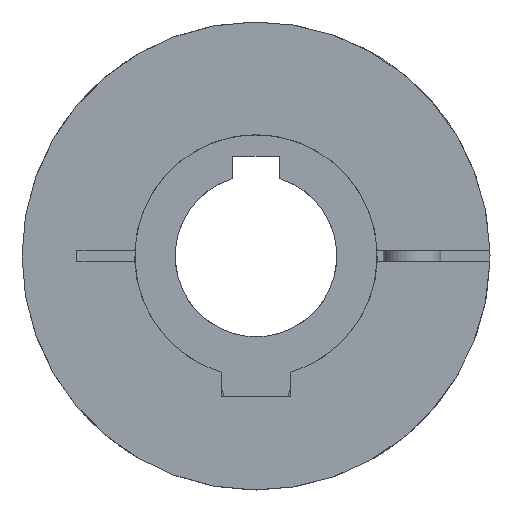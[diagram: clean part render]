
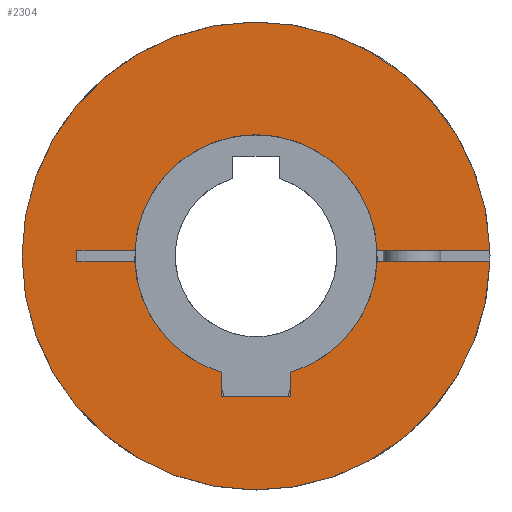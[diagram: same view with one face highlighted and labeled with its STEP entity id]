
A CAD part, left-side view. The second image highlights one B-rep face of the part: STEP entity #2304.
In plain terms, the highlighted planar face has unit normal (-1, 0, 0).
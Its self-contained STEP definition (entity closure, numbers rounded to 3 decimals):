
#134=PLANE('',#2632);
#287=LINE('',#4081,#424);
#290=LINE('',#4087,#427);
#291=LINE('',#4089,#428);
#293=LINE('',#4093,#430);
#299=LINE('',#4111,#436);
#301=LINE('',#4115,#438);
#302=LINE('',#4116,#439);
#303=LINE('',#4118,#440);
#424=VECTOR('',#3189,1.);
#427=VECTOR('',#3194,1.);
#428=VECTOR('',#3197,1.);
#430=VECTOR('',#3201,1000.);
#436=VECTOR('',#3217,1000.);
#438=VECTOR('',#3221,1000.);
#439=VECTOR('',#3222,1000.);
#440=VECTOR('',#3223,1000.);
#558=FACE_OUTER_BOUND('',#695,.T.);
#695=EDGE_LOOP('',(#1929,#1930,#1931,#1932,#1933,#1934,#1935,#1936,#1937,
#1938,#1939,#1940));
#862=CIRCLE('',#2617,21.);
#864=CIRCLE('',#2619,21.);
#865=CIRCLE('',#2621,21.);
#870=CIRCLE('',#2633,40.5);
#1086=VERTEX_POINT('',#4054);
#1087=VERTEX_POINT('',#4056);
#1090=VERTEX_POINT('',#4062);
#1091=VERTEX_POINT('',#4064);
#1092=VERTEX_POINT('',#4068);
#1093=VERTEX_POINT('',#4069);
#1097=VERTEX_POINT('',#4079);
#1099=VERTEX_POINT('',#4085);
#1100=VERTEX_POINT('',#4092);
#1107=VERTEX_POINT('',#4110);
#1108=VERTEX_POINT('',#4114);
#1109=VERTEX_POINT('',#4117);
#1383=EDGE_CURVE('',#1087,#1086,#862,.T.);
#1387=EDGE_CURVE('',#1091,#1090,#864,.T.);
#1389=EDGE_CURVE('',#1092,#1093,#865,.T.);
#1395=EDGE_CURVE('',#1090,#1097,#287,.T.);
#1398=EDGE_CURVE('',#1097,#1099,#290,.T.);
#1399=EDGE_CURVE('',#1099,#1087,#291,.T.);
#1401=EDGE_CURVE('',#1091,#1100,#293,.T.);
#1410=EDGE_CURVE('',#1107,#1092,#299,.T.);
#1412=EDGE_CURVE('',#1108,#1086,#301,.T.);
#1413=EDGE_CURVE('',#1107,#1108,#302,.T.);
#1414=EDGE_CURVE('',#1093,#1109,#303,.T.);
#1415=EDGE_CURVE('',#1109,#1100,#870,.T.);
#1929=ORIENTED_EDGE('',*,*,#1387,.T.);
#1930=ORIENTED_EDGE('',*,*,#1395,.T.);
#1931=ORIENTED_EDGE('',*,*,#1398,.T.);
#1932=ORIENTED_EDGE('',*,*,#1399,.T.);
#1933=ORIENTED_EDGE('',*,*,#1383,.T.);
#1934=ORIENTED_EDGE('',*,*,#1412,.F.);
#1935=ORIENTED_EDGE('',*,*,#1413,.F.);
#1936=ORIENTED_EDGE('',*,*,#1410,.T.);
#1937=ORIENTED_EDGE('',*,*,#1389,.T.);
#1938=ORIENTED_EDGE('',*,*,#1414,.T.);
#1939=ORIENTED_EDGE('',*,*,#1415,.T.);
#1940=ORIENTED_EDGE('',*,*,#1401,.F.);
#2304=ADVANCED_FACE('',(#558),#134,.T.);
#2617=AXIS2_PLACEMENT_3D('',#4057,#3168,#3169);
#2619=AXIS2_PLACEMENT_3D('',#4065,#3174,#3175);
#2621=AXIS2_PLACEMENT_3D('',#4070,#3179,#3180);
#2632=AXIS2_PLACEMENT_3D('',#4113,#3219,#3220);
#2633=AXIS2_PLACEMENT_3D('',#4119,#3224,#3225);
#3168=DIRECTION('center_axis',(1.,0.,0.));
#3169=DIRECTION('ref_axis',(0.,0.,-1.));
#3174=DIRECTION('center_axis',(1.,0.,0.));
#3175=DIRECTION('ref_axis',(0.,0.,-1.));
#3179=DIRECTION('center_axis',(1.,0.,0.));
#3180=DIRECTION('ref_axis',(0.,0.,-1.));
#3189=DIRECTION('',(0.,0.,-1.));
#3194=DIRECTION('',(0.,1.,0.));
#3197=DIRECTION('',(0.,0.,1.));
#3201=DIRECTION('',(0.,-1.,0.));
#3217=DIRECTION('',(0.,-1.,0.));
#3219=DIRECTION('center_axis',(-1.,0.,0.));
#3220=DIRECTION('ref_axis',(0.,1.,0.));
#3221=DIRECTION('',(0.,-1.,0.));
#3222=DIRECTION('',(0.,0.,-1.));
#3223=DIRECTION('',(0.,-1.,0.));
#3224=DIRECTION('center_axis',(-1.,0.,0.));
#3225=DIRECTION('ref_axis',(0.,1.,0.));
#4054=CARTESIAN_POINT('',(0.,20.976,-1.));
#4056=CARTESIAN_POINT('',(0.,6.,-20.125));
#4057=CARTESIAN_POINT('Origin',(0.,0.,0.));
#4062=CARTESIAN_POINT('',(0.,-6.,-20.125));
#4064=CARTESIAN_POINT('',(0.,-20.976,-1.));
#4065=CARTESIAN_POINT('Origin',(0.,0.,0.));
#4068=CARTESIAN_POINT('',(0.,20.976,1.));
#4069=CARTESIAN_POINT('',(0.,-20.976,1.));
#4070=CARTESIAN_POINT('Origin',(0.,0.,0.));
#4079=CARTESIAN_POINT('',(0.,-6.,-24.3));
#4081=CARTESIAN_POINT('',(0.,-6.,-9.575));
#4085=CARTESIAN_POINT('',(0.,6.,-24.3));
#4087=CARTESIAN_POINT('',(0.,0.,-24.3));
#4089=CARTESIAN_POINT('',(0.,6.,-9.575));
#4092=CARTESIAN_POINT('',(0.,-40.488,-1.));
#4093=CARTESIAN_POINT('',(0.,31.,-1.));
#4110=CARTESIAN_POINT('',(0.,31.,1.));
#4111=CARTESIAN_POINT('',(0.,31.,1.));
#4113=CARTESIAN_POINT('Origin',(0.,0.,-7.));
#4114=CARTESIAN_POINT('',(0.,31.,-1.));
#4115=CARTESIAN_POINT('',(0.,31.,-1.));
#4116=CARTESIAN_POINT('',(0.,31.,1.));
#4117=CARTESIAN_POINT('',(0.,-40.488,1.));
#4118=CARTESIAN_POINT('',(0.,31.,1.));
#4119=CARTESIAN_POINT('Origin',(0.,0.,0.));
